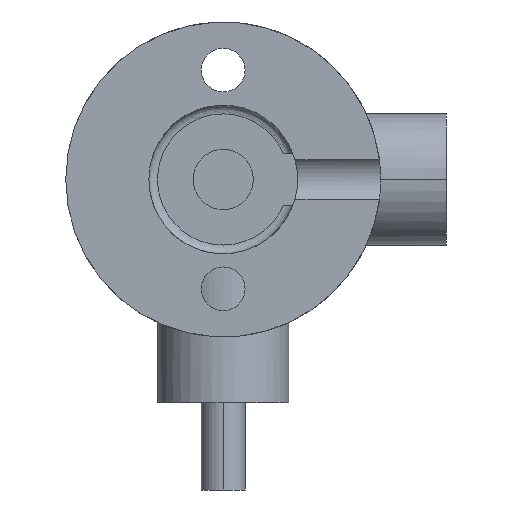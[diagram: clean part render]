
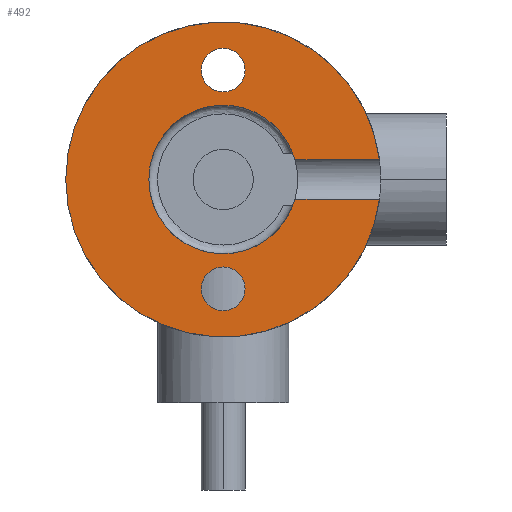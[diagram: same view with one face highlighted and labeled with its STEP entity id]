
A CAD part, front view. The second image highlights one B-rep face of the part: STEP entity #492.
In plain terms, the highlighted planar face has unit normal (0, -1, 0).
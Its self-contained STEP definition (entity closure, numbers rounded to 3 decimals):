
#17=CARTESIAN_POINT('',(0.,0.,0.));
#18=DIRECTION('',(0.,-1.,0.));
#19=DIRECTION('',(0.965,0.,0.263));
#20=AXIS2_PLACEMENT_3D('',#17,#18,#19);
#22=CARTESIAN_POINT('',(0.,0.,0.));
#23=DIRECTION('',(0.,-1.,0.));
#24=DIRECTION('',(-1.,0.,0.));
#25=AXIS2_PLACEMENT_3D('',#22,#23,#24);
#27=CARTESIAN_POINT('',(0.,0.,0.));
#28=DIRECTION('',(0.,1.,0.));
#29=DIRECTION('',(0.992,0.,-0.124));
#30=AXIS2_PLACEMENT_3D('',#27,#28,#29);
#32=CARTESIAN_POINT('',(0.,0.,0.));
#33=DIRECTION('',(0.,1.,0.));
#34=DIRECTION('',(-1.,0.,0.));
#35=AXIS2_PLACEMENT_3D('',#32,#33,#34);
#37=CARTESIAN_POINT('',(0.,0.,-12.5));
#38=DIRECTION('',(0.,-1.,0.));
#39=DIRECTION('',(1.,0.,0.));
#40=AXIS2_PLACEMENT_3D('',#37,#38,#39);
#42=CARTESIAN_POINT('',(0.,0.,-12.5));
#43=DIRECTION('',(0.,-1.,0.));
#44=DIRECTION('',(-1.,0.,0.));
#45=AXIS2_PLACEMENT_3D('',#42,#43,#44);
#47=CARTESIAN_POINT('',(0.,0.,12.5));
#48=DIRECTION('',(0.,-1.,0.));
#49=DIRECTION('',(1.,0.,0.));
#50=AXIS2_PLACEMENT_3D('',#47,#48,#49);
#52=CARTESIAN_POINT('',(0.,0.,12.5));
#53=DIRECTION('',(0.,-1.,0.));
#54=DIRECTION('',(-1.,0.,0.));
#55=AXIS2_PLACEMENT_3D('',#52,#53,#54);
#95=DIRECTION('',(1.,0.,0.));
#96=VECTOR('',#95,9.66);
#97=CARTESIAN_POINT('',(8.201,0.,2.236));
#98=LINE('',#97,#96);
#99=DIRECTION('',(-1.,0.,0.));
#100=VECTOR('',#99,9.66);
#101=CARTESIAN_POINT('',(17.861,0.,
-2.236));
#102=LINE('',#101,#100);
#376=CARTESIAN_POINT('',(8.201,0.,2.236));
#377=CARTESIAN_POINT('',(17.861,0.,2.236));
#378=VERTEX_POINT('',#376);
#379=VERTEX_POINT('',#377);
#380=CARTESIAN_POINT('',(-8.5,0.,0.));
#381=CARTESIAN_POINT('',(8.201,0.,-2.236));
#382=VERTEX_POINT('',#380);
#383=VERTEX_POINT('',#381);
#384=CARTESIAN_POINT('',(17.861,0.,
-2.236));
#385=VERTEX_POINT('',#384);
#386=CARTESIAN_POINT('',(-18.,0.,0.));
#387=VERTEX_POINT('',#386);
#388=CARTESIAN_POINT('',(2.5,0.,-12.5));
#389=CARTESIAN_POINT('',(-2.5,0.,-12.5));
#390=VERTEX_POINT('',#388);
#391=VERTEX_POINT('',#389);
#392=CARTESIAN_POINT('',(2.5,0.,12.5));
#393=CARTESIAN_POINT('',(-2.5,0.,12.5));
#394=VERTEX_POINT('',#392);
#395=VERTEX_POINT('',#393);
#461=CARTESIAN_POINT('',(0.,0.,0.));
#462=DIRECTION('',(0.,1.,0.));
#463=DIRECTION('',(1.,0.,0.));
#464=AXIS2_PLACEMENT_3D('',#461,#462,#463);
#465=PLANE('',#464);
#467=ORIENTED_EDGE('',*,*,#466,.F.);
#469=ORIENTED_EDGE('',*,*,#468,.T.);
#471=ORIENTED_EDGE('',*,*,#470,.T.);
#473=ORIENTED_EDGE('',*,*,#472,.F.);
#475=ORIENTED_EDGE('',*,*,#474,.T.);
#477=ORIENTED_EDGE('',*,*,#476,.T.);
#478=EDGE_LOOP('',(#467,#469,#471,#473,#475,#477));
#479=FACE_OUTER_BOUND('',#478,.F.);
#481=ORIENTED_EDGE('',*,*,#480,.T.);
#483=ORIENTED_EDGE('',*,*,#482,.T.);
#484=EDGE_LOOP('',(#481,#483));
#485=FACE_BOUND('',#484,.F.);
#487=ORIENTED_EDGE('',*,*,#486,.T.);
#489=ORIENTED_EDGE('',*,*,#488,.T.);
#490=EDGE_LOOP('',(#487,#489));
#491=FACE_BOUND('',#490,.F.);
#492=ADVANCED_FACE('',(#479,#485,#491),#465,.F.);
#21=CIRCLE('',#20,8.5);
#26=CIRCLE('',#25,8.5);
#31=CIRCLE('',#30,18.);
#36=CIRCLE('',#35,18.);
#41=CIRCLE('',#40,2.5);
#46=CIRCLE('',#45,2.5);
#51=CIRCLE('',#50,2.5);
#56=CIRCLE('',#55,2.5);
#466=EDGE_CURVE('',#378,#379,#98,.T.);
#468=EDGE_CURVE('',#378,#382,#21,.T.);
#470=EDGE_CURVE('',#382,#383,#26,.T.);
#472=EDGE_CURVE('',#385,#383,#102,.T.);
#474=EDGE_CURVE('',#385,#387,#31,.T.);
#476=EDGE_CURVE('',#387,#379,#36,.T.);
#480=EDGE_CURVE('',#390,#391,#41,.T.);
#482=EDGE_CURVE('',#391,#390,#46,.T.);
#486=EDGE_CURVE('',#394,#395,#51,.T.);
#488=EDGE_CURVE('',#395,#394,#56,.T.);
